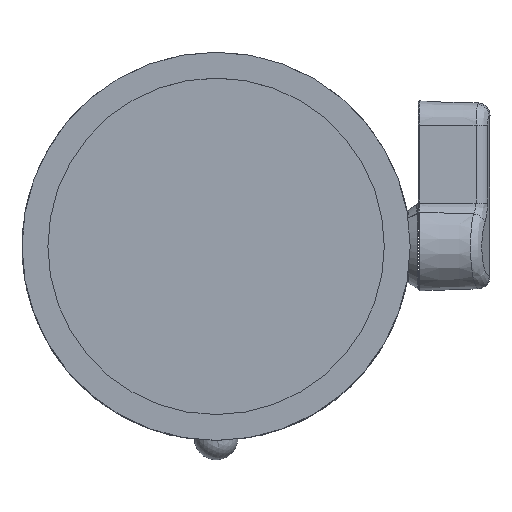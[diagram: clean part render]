
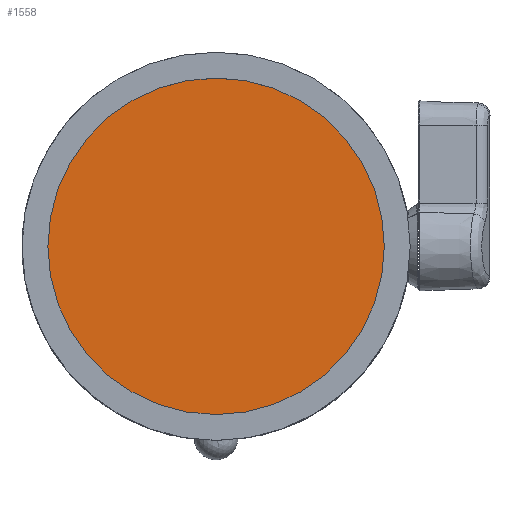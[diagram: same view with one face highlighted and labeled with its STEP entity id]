
A CAD part, top view. The second image highlights one B-rep face of the part: STEP entity #1558.
In plain terms, the highlighted planar face has unit normal (0, 0, 1).
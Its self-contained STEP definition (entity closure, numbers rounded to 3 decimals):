
#1558=ADVANCED_FACE('',(#1739),#1667,.F.);
#1667=PLANE('',#3987);
#1739=FACE_OUTER_BOUND('',#1937,.T.);
#1937=EDGE_LOOP('',(#2526));
#2526=ORIENTED_EDGE('',*,*,#3549,.F.);
#3173=VERTEX_POINT('',#6294);
#3549=EDGE_CURVE('',#3173,#3173,#3789,.T.);
#3789=CIRCLE('',#3985,20.8);
#3985=AXIS2_PLACEMENT_3D('',#6293,#4387,#4388);
#3987=AXIS2_PLACEMENT_3D('',#6296,#4391,#4392);
#4387=DIRECTION('',(0.,0.,-1.));
#4388=DIRECTION('',(-1.,0.,0.));
#4391=DIRECTION('',(0.,0.,-1.));
#4392=DIRECTION('',(-1.,0.,0.));
#6293=CARTESIAN_POINT('',(0.,0.,37.47));
#6294=CARTESIAN_POINT('',(-20.8,0.,37.47));
#6296=CARTESIAN_POINT('',(0.,0.,37.47));
